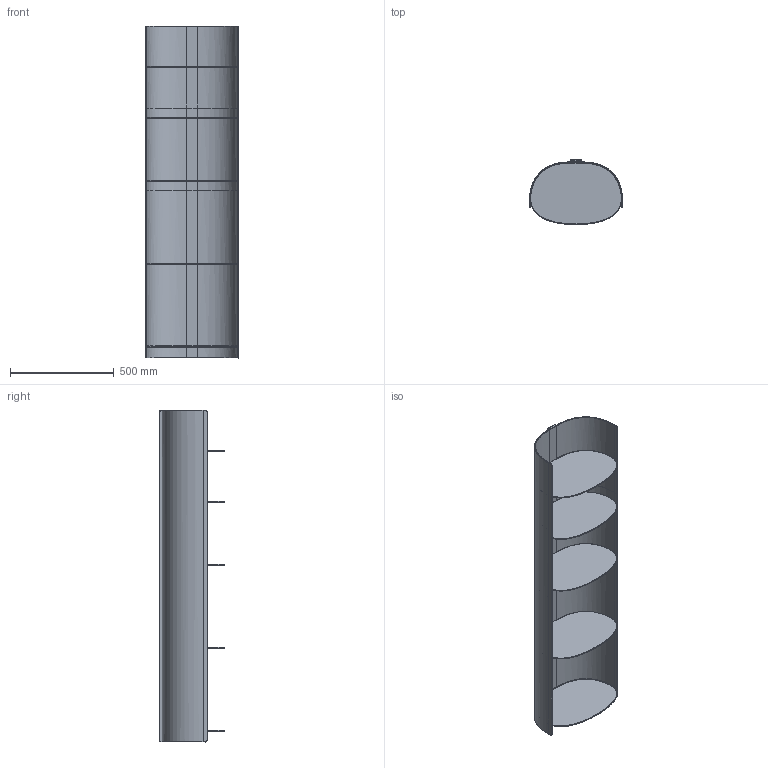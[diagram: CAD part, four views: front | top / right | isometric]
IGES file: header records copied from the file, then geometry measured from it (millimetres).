
Global section: file name: /Volumes/Clients/Pulpo/20210922_CASACOMO_Shelf/Export/202207_Pulpo_Comoshelf_big.igs; native system: Rhinoceros ( Jun 14 2022 ); preprocessor: Trout Lake IGES 012 Jun 14 2022; date: 220705.075844; units: millimetre
Bounding box: 450 x 311.97 x 1600 mm (x, y, z)
Surface area: 3655069.5 mm2 (no closed solid volume)
Topology: 0 solids, 0 shells, 179 faces, 2080 edges, 2080 vertices
Faces by surface type: bspline 179
